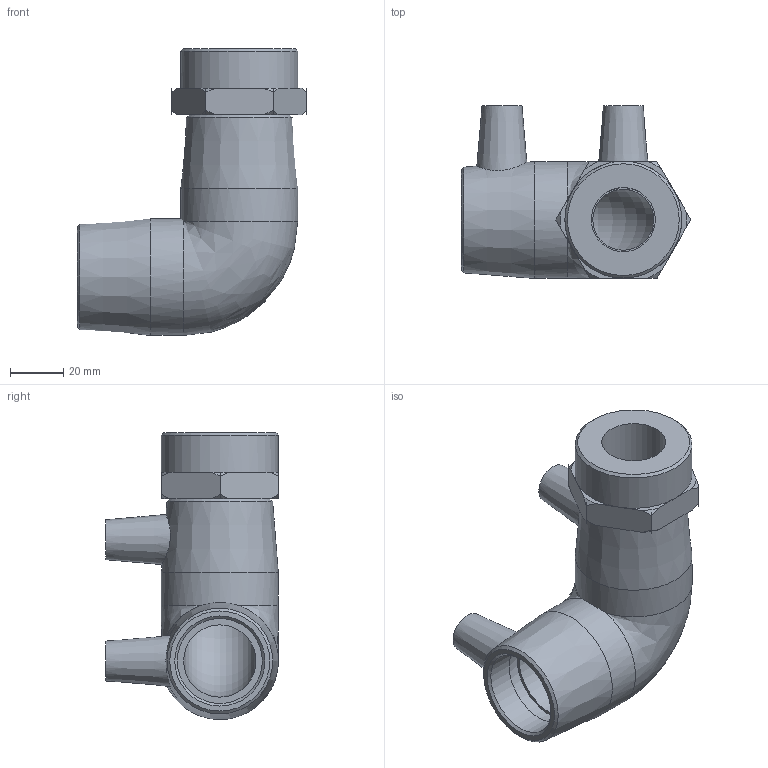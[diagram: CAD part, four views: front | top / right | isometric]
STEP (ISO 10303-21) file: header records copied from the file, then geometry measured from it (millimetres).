
FILE_DESCRIPTION(/* description */ ('PLASSON 90° ELBOW FEMALE TRANSITION 32-3/4'''''),/* implementation_level */ '2;1');
FILE_NAME(/* name */ 'C:\Dropbox\KIMPROJECTS-Inventor\99-16-3568-Processing\ElectroFusion Fittings\02.02.20\493504\493504032007.ipt.stp',/* time_stamp */ '2020-02-02T12:34:16+02:00',/* author */ ('KIM'),/* organization */ (''),/* preprocessor_version */ 'ST-DEVELOPER v15.6',/* originating_system */ 'Autodesk Inventor 2015',/* authorisation */ '');
FILE_SCHEMA (('AUTOMOTIVE_DESIGN { 1 0 10303 214 3 1 1 }'));
Length unit declared in the file: millimetre
Products named in the file (1): 493504032007
Bounding box: 86.4 x 65.06 x 108 mm (x, y, z)
Volume: 132746.8 mm3; surface area: 38312.1 mm2
Topology: 1 solids, 2 shells, 76 faces, 206 edges, 141 vertices
Faces by surface type: plane 27, cylinder 25, cone 22, bspline 1, torus 1
Full cylindrical faces by diameter (mm): 4 x2, 10 x2, 23 x1, 24.117 x1, 32 x4, 44 x3
Entity records: 2375 total; most frequent: CARTESIAN_POINT 512, DIRECTION 384, ORIENTED_EDGE 332, AXIS2_PLACEMENT_3D 168, EDGE_CURVE 166, VERTEX_POINT 129, EDGE_LOOP 115, CIRCLE 91
